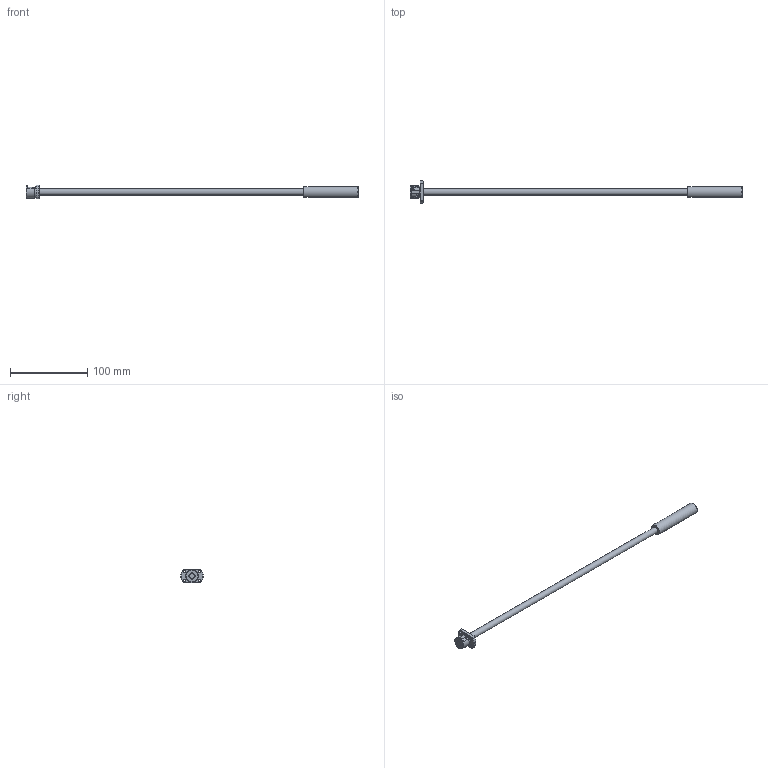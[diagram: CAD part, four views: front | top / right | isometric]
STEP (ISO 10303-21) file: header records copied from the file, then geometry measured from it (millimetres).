
FILE_DESCRIPTION( ( 'STEP AP203' ), '1' );
FILE_NAME( 'e:/temp/worker_98/temp/exporttempdir_5216_1037_6miaq/format_0/SSRT0801-356R430C100X(0None).stp', '2021-10-19T07:49:30', ( 'License CC BY-ND 4.0' ), ( 'CADENAS' ), ' ', 'PARTsolutions', ' ' );
FILE_SCHEMA( ( 'CONFIG_CONTROL_DESIGN' ) );
Length unit declared in the file: millimetre
Products named in the file (3): SSRT0801-356R430C100X(0None); _SSRT0801-356R430Ct10NoneShaft; _SSRT0801Nut
Assembly tree (2 placements, depth 2):
  SSRT0801-356R430C100X(0None)
    _SSRT0801-356R430Ct10NoneShaft
    _SSRT0801Nut
Bounding box: 430 x 29 x 18 mm (x, y, z)
Volume: 32503.7 mm3; surface area: 14859 mm2
Topology: 2 solids, 2 shells, 52 faces, 129 edges, 83 vertices
Faces by surface type: plane 24, cylinder 15, cone 13
Full cylindrical faces by diameter (mm): 2 x2, 3.4 x4, 8 x2, 14.2 x1, 15.5 x1, 16 x1
Entity records: 1580 total; most frequent: CARTESIAN_POINT 337, DIRECTION 246, ORIENTED_EDGE 206, AXIS2_PLACEMENT_3D 106, EDGE_CURVE 103, EDGE_LOOP 80, VERTEX_POINT 73, FACE_OUTER_BOUND 63
